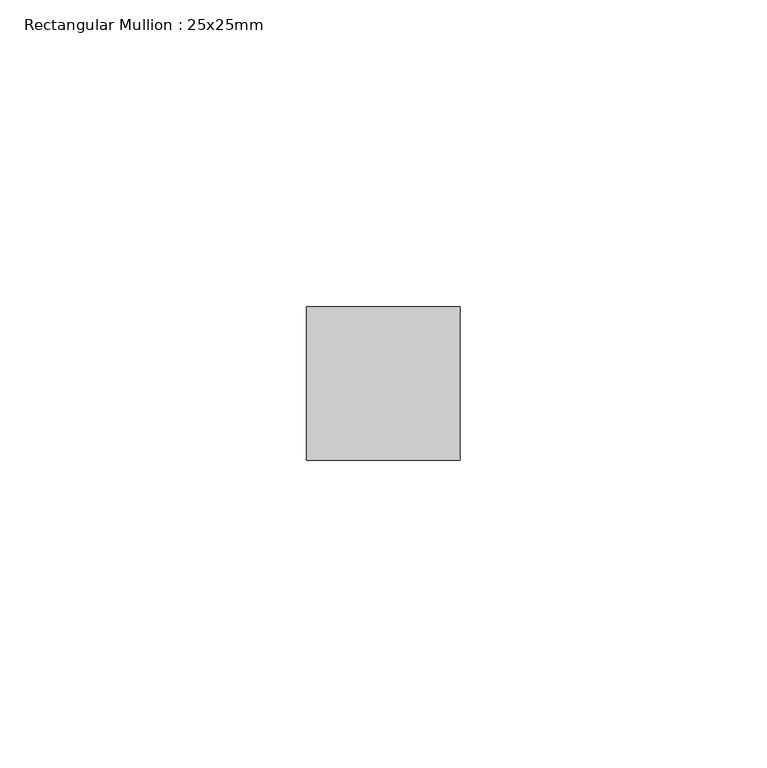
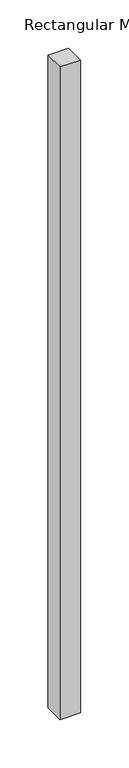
"""IFC4 building model written with IfcOpenShell, lengths in millimetres: member geometry, Rectangular Mullion : 25x25mm."""

from ifc_helpers import new_model, si_unit, frame, origin, place, context, project, spatial, polyline, outline, extrude, source, transform, mapped, element, save


def rectangular_mullion_25x25mm_c4f882d5(model_context):
    return source(origin(), model_context, "Body", "SweptSolid", [
        extrude(outline(polyline([(12.5, 0.5), (12.5, -24.5), (-12.5, -24.5), (-12.5, 0.5), (12.5, 0.5)])), frame((0.0, 0.0, -828.1250002), z_axis=(0.0, 0.0, 1.0), x_axis=(1.0, 0.0, 0.0)), (0.0, 0.0, 1.0), 828.1250002),
    ])


if __name__ == "__main__":
    model = new_model("IFC4")
    model_context = context("Model", 3, world=origin())
    ifc_project = project(units=[si_unit("LENGTHUNIT", "METRE", prefix="MILLI")], contexts=[model_context])
    site = spatial("IfcSite", under=ifc_project)
    building = spatial("IfcBuilding", under=site)
    placement = place(None, origin())
    rectangular_mullion_25x25mm_shape = rectangular_mullion_25x25mm_c4f882d5(model_context)
    element("IfcMember", 1, ObjectType="Rectangular Mullion : 25x25mm", at=placement, inside=building, context=model_context, shape_type="MappedRepresentation", body=[
        mapped(rectangular_mullion_25x25mm_shape, transform((0.0, 0.0, 0.0), x_axis=(1.0, 0.0, 0.0), y_axis=(0.0, 1.0, 0.0), z_axis=(0.0, 0.0, 1.0))),
    ])
    save(model, "model.ifc")
